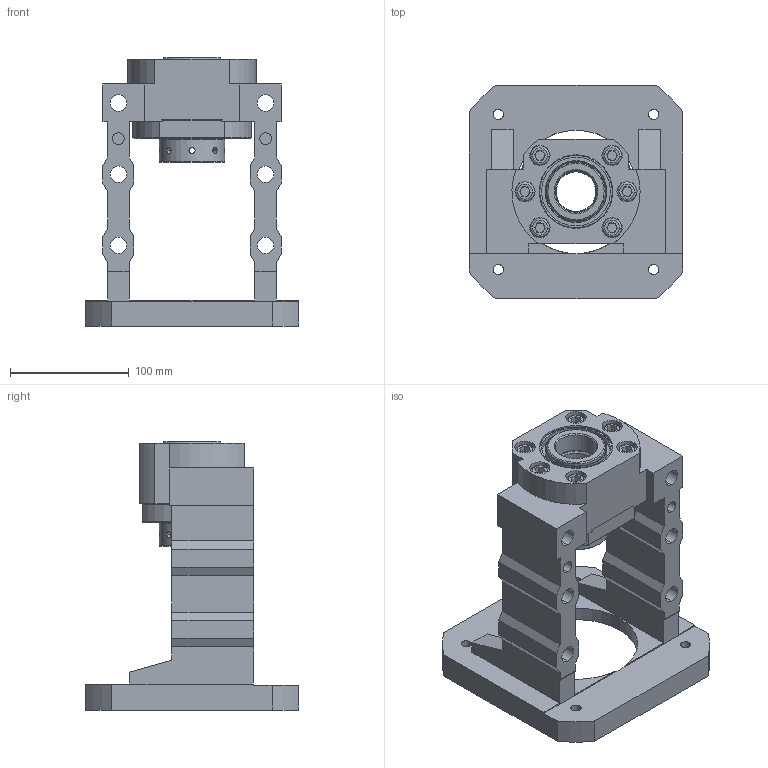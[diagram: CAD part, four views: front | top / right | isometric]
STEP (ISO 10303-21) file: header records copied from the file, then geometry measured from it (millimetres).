
FILE_DESCRIPTION (( 'STEP AP203' ), '1' );
FILE_NAME ('MBCS35-J²Õ¦X¥ó.STEP', '2021-12-20T02:18:19', ( '' ), ( '' ), 'SwSTEP 2.0', 'SolidWorks 2018', '' );
FILE_SCHEMA (( 'CONFIG_CONTROL_DESIGN' ));
Length unit declared in the file: millimetre
Products named in the file (1): MBCS35-J組合件
Bounding box: 180 x 180 x 226 mm (x, y, z)
Surface area: 236079 mm2 (no closed solid volume)
Topology: 0 solids, 22 shells, 357 faces, 1016 edges, 671 vertices
Faces by surface type: plane 138, cylinder 123, cone 64, torus 20, bspline 12
Entity records: 27181 total; most frequent: CARTESIAN_POINT 17877, DIRECTION 1957, ORIENTED_EDGE 1788, EDGE_CURVE 1008, AXIS2_PLACEMENT_3D 733, VERTEX_POINT 671, VECTOR 491, LINE 491
